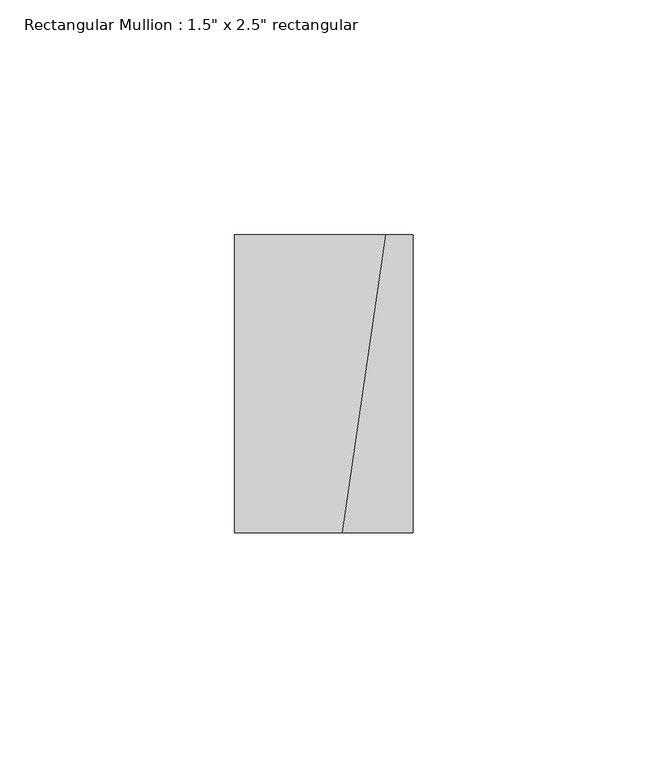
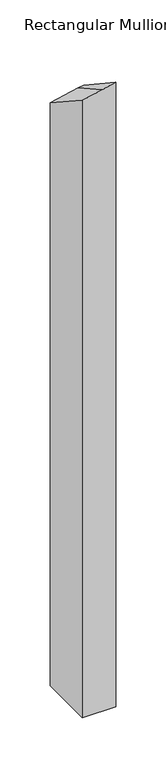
"""IFC4 building model written with IfcOpenShell, lengths in millimetres: member geometry."""

from ifc_helpers import new_model, si_unit, origin, place, context, project, spatial, faceted_brep, source, transform, mapped, element, save


def member_65f14fc3(model_context):
    return source(origin(), model_context, "Body", "Brep", [
        faceted_brep([(19.05, 31.75, -770.3374218), (19.05, -31.75, -770.3374218), (-19.05, -31.75, -770.3374218), (-19.05, 31.75, -770.3374218), (-19.05, 31.75, -63.333713), (13.2216383, 31.75, -56.6113604), (19.05, 31.75, -55.1013359), (-19.05, -31.75, -21.6856352), (19.05, -31.75, -12.9822675), (3.9459505, -31.75, -16.8954573)], [[[0, 1, 2, 3]], [[4, 5, 6, 0, 3]], [[7, 4, 3, 2]], [[8, 9, 7, 2, 1]], [[6, 8, 1, 0]], [[6, 5, 9, 8]], [[5, 4, 7, 9]]]),
    ])


if __name__ == "__main__":
    model = new_model("IFC4")
    model_context = context("Model", 3, world=origin())
    ifc_project = project(units=[si_unit("LENGTHUNIT", "METRE", prefix="MILLI")], contexts=[model_context])
    site = spatial("IfcSite", under=ifc_project)
    building = spatial("IfcBuilding", under=site)
    placement = place(None, origin())
    member_shape = member_65f14fc3(model_context)
    element("IfcMember", 1, ObjectType="Rectangular Mullion : 1.5\" x 2.5\" rectangular", at=placement, inside=building, context=model_context, shape_type="MappedRepresentation", body=[
        mapped(member_shape, transform((0.0, 0.0, 0.0), x_axis=(1.0, 0.0, 0.0), y_axis=(0.0, 1.0, 0.0), z_axis=(0.0, 0.0, 1.0))),
    ])
    save(model, "model.ifc")
